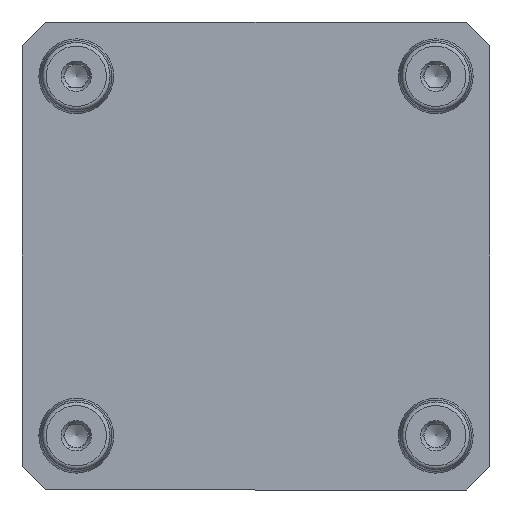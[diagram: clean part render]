
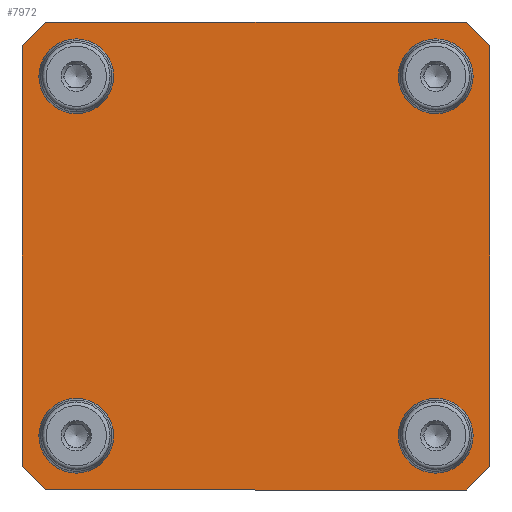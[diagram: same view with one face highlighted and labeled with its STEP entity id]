
A CAD part, front view. The second image highlights one B-rep face of the part: STEP entity #7972.
In plain terms, the highlighted planar face has unit normal (0, -1, 0).
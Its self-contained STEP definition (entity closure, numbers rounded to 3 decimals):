
#54 = LINE ( 'NONE', #2853, #2844 ) ;
#56 = LINE ( 'NONE', #9001, #7028 ) ;
#177 = CARTESIAN_POINT ( 'NONE',  ( -48., -25., -48. ) ) ;
#270 = VERTEX_POINT ( 'NONE', #6588 ) ;
#439 = CARTESIAN_POINT ( 'NONE',  ( -56.15, -25., 62.5 ) ) ;
#480 = AXIS2_PLACEMENT_3D ( 'NONE', #4082, #5568, #4974 ) ;
#498 = DIRECTION ( 'NONE',  ( 0., 0., -1. ) ) ;
#740 = VERTEX_POINT ( 'NONE', #2779 ) ;
#770 = ORIENTED_EDGE ( 'NONE', *, *, #7155, .F. ) ;
#918 = VERTEX_POINT ( 'NONE', #5151 ) ;
#924 = VERTEX_POINT ( 'NONE', #5274 ) ;
#960 = EDGE_LOOP ( 'NONE', ( #2899 ) ) ;
#1027 = DIRECTION ( 'NONE',  ( 0., 0., -1. ) ) ;
#1073 = VECTOR ( 'NONE', #4606, 1000. ) ;
#1105 = CARTESIAN_POINT ( 'NONE',  ( -56.15, -25., 62.5 ) ) ;
#1133 = EDGE_CURVE ( 'NONE', #2357, #740, #54, .T. ) ;
#1261 = EDGE_CURVE ( 'NONE', #270, #270, #3561, .T. ) ;
#1448 = EDGE_CURVE ( 'NONE', #7261, #1985, #3833, .T. ) ;
#1603 = DIRECTION ( 'NONE',  ( 0., -1., 0. ) ) ;
#1607 = LINE ( 'NONE', #5861, #2116 ) ;
#1633 = DIRECTION ( 'NONE',  ( 0., -1., 0. ) ) ;
#1848 = ORIENTED_EDGE ( 'NONE', *, *, #4522, .F. ) ;
#1985 = VERTEX_POINT ( 'NONE', #5026 ) ;
#2017 = DIRECTION ( 'NONE',  ( 0.707, 0., -0.707 ) ) ;
#2065 = VECTOR ( 'NONE', #5531, 1000. ) ;
#2116 = VECTOR ( 'NONE', #3665, 1000. ) ;
#2357 = VERTEX_POINT ( 'NONE', #7889 ) ;
#2374 = CIRCLE ( 'NONE', #3098, 8.01 ) ;
#2433 = LINE ( 'NONE', #439, #8627 ) ;
#2479 = CARTESIAN_POINT ( 'NONE',  ( -62.5, -25., -56.15 ) ) ;
#2499 = EDGE_CURVE ( 'NONE', #740, #924, #3551, .T. ) ;
#2595 = EDGE_CURVE ( 'NONE', #7932, #7932, #2374, .T. ) ;
#2779 = CARTESIAN_POINT ( 'NONE',  ( 62.5, -25., -56.15 ) ) ;
#2844 = VECTOR ( 'NONE', #3384, 1000. ) ;
#2853 = CARTESIAN_POINT ( 'NONE',  ( 62.5, -25., -56.15 ) ) ;
#2869 = LINE ( 'NONE', #4124, #4607 ) ;
#2888 = AXIS2_PLACEMENT_3D ( 'NONE', #8619, #3003, #498 ) ;
#2899 = ORIENTED_EDGE ( 'NONE', *, *, #2595, .F. ) ;
#2933 = EDGE_CURVE ( 'NONE', #8341, #8341, #8095, .T. ) ;
#3003 = DIRECTION ( 'NONE',  ( 0., -1., 0. ) ) ;
#3098 = AXIS2_PLACEMENT_3D ( 'NONE', #177, #1633, #1027 ) ;
#3230 = DIRECTION ( 'NONE',  ( 0.707, 0., 0.707 ) ) ;
#3258 = VERTEX_POINT ( 'NONE', #1105 ) ;
#3269 = VECTOR ( 'NONE', #6963, 1000. ) ;
#3384 = DIRECTION ( 'NONE',  ( 0., 0., -1. ) ) ;
#3551 = LINE ( 'NONE', #6346, #2065 ) ;
#3553 = PLANE ( 'NONE',  #6813 ) ;
#3561 = CIRCLE ( 'NONE', #5896, 8.01 ) ;
#3662 = VERTEX_POINT ( 'NONE', #9011 ) ;
#3665 = DIRECTION ( 'NONE',  ( 1., 0., 0. ) ) ;
#3718 = EDGE_CURVE ( 'NONE', #924, #7261, #2869, .T. ) ;
#3729 = ORIENTED_EDGE ( 'NONE', *, *, #3718, .F. ) ;
#3833 = LINE ( 'NONE', #2479, #1073 ) ;
#3839 = ORIENTED_EDGE ( 'NONE', *, *, #6836, .F. ) ;
#3913 = ORIENTED_EDGE ( 'NONE', *, *, #2499, .F. ) ;
#4052 = CARTESIAN_POINT ( 'NONE',  ( -48., -25., -56.01 ) ) ;
#4082 = CARTESIAN_POINT ( 'NONE',  ( 48., -25., 48. ) ) ;
#4124 = CARTESIAN_POINT ( 'NONE',  ( -56.15, -25., -62.5 ) ) ;
#4161 = EDGE_CURVE ( 'NONE', #7461, #2357, #56, .T. ) ;
#4238 = FACE_BOUND ( 'NONE', #6699, .T. ) ;
#4342 = DIRECTION ( 'NONE',  ( 0., 0., -1. ) ) ;
#4374 = FACE_BOUND ( 'NONE', #960, .T. ) ;
#4522 = EDGE_CURVE ( 'NONE', #1985, #3662, #8368, .T. ) ;
#4606 = DIRECTION ( 'NONE',  ( -0.707, 0., 0.707 ) ) ;
#4607 = VECTOR ( 'NONE', #8473, 1000. ) ;
#4695 = CARTESIAN_POINT ( 'NONE',  ( 48., -25., 39.99 ) ) ;
#4728 = ORIENTED_EDGE ( 'NONE', *, *, #1261, .F. ) ;
#4974 = DIRECTION ( 'NONE',  ( 0., 0., -1. ) ) ;
#4986 = DIRECTION ( 'NONE',  ( 0., -1., 0. ) ) ;
#5026 = CARTESIAN_POINT ( 'NONE',  ( -62.5, -25., -56.15 ) ) ;
#5128 = CARTESIAN_POINT ( 'NONE',  ( 56.15, -25., 62.5 ) ) ;
#5151 = CARTESIAN_POINT ( 'NONE',  ( 48., -25., -56.01 ) ) ;
#5274 = CARTESIAN_POINT ( 'NONE',  ( 56.15, -25., -62.5 ) ) ;
#5531 = DIRECTION ( 'NONE',  ( -0.707, 0., -0.707 ) ) ;
#5568 = DIRECTION ( 'NONE',  ( 0., -1., 0. ) ) ;
#5762 = FACE_OUTER_BOUND ( 'NONE', #6983, .T. ) ;
#5805 = FACE_BOUND ( 'NONE', #6388, .T. ) ;
#5861 = CARTESIAN_POINT ( 'NONE',  ( 56.15, -25., 62.5 ) ) ;
#5896 = AXIS2_PLACEMENT_3D ( 'NONE', #7143, #1603, #4342 ) ;
#6092 = EDGE_LOOP ( 'NONE', ( #770 ) ) ;
#6240 = ORIENTED_EDGE ( 'NONE', *, *, #1133, .F. ) ;
#6346 = CARTESIAN_POINT ( 'NONE',  ( 56.15, -25., -62.5 ) ) ;
#6349 = CARTESIAN_POINT ( 'NONE',  ( 0., -25., 0. ) ) ;
#6388 = EDGE_LOOP ( 'NONE', ( #7572 ) ) ;
#6526 = ORIENTED_EDGE ( 'NONE', *, *, #7699, .F. ) ;
#6588 = CARTESIAN_POINT ( 'NONE',  ( -48., -25., 39.99 ) ) ;
#6699 = EDGE_LOOP ( 'NONE', ( #4728 ) ) ;
#6813 = AXIS2_PLACEMENT_3D ( 'NONE', #6349, #4986, #7873 ) ;
#6836 = EDGE_CURVE ( 'NONE', #3258, #7461, #1607, .T. ) ;
#6963 = DIRECTION ( 'NONE',  ( 0., 0., 1. ) ) ;
#6983 = EDGE_LOOP ( 'NONE', ( #8668, #3729, #3913, #6240, #7612, #3839, #6526, #1848 ) ) ;
#7028 = VECTOR ( 'NONE', #2017, 1000. ) ;
#7143 = CARTESIAN_POINT ( 'NONE',  ( -48., -25., 48. ) ) ;
#7155 = EDGE_CURVE ( 'NONE', #918, #918, #8461, .T. ) ;
#7261 = VERTEX_POINT ( 'NONE', #8163 ) ;
#7461 = VERTEX_POINT ( 'NONE', #5128 ) ;
#7572 = ORIENTED_EDGE ( 'NONE', *, *, #2933, .F. ) ;
#7612 = ORIENTED_EDGE ( 'NONE', *, *, #4161, .F. ) ;
#7699 = EDGE_CURVE ( 'NONE', #3662, #3258, #2433, .T. ) ;
#7873 = DIRECTION ( 'NONE',  ( 0., 0., -1. ) ) ;
#7889 = CARTESIAN_POINT ( 'NONE',  ( 62.5, -25., 56.15 ) ) ;
#7932 = VERTEX_POINT ( 'NONE', #4052 ) ;
#7972 = ADVANCED_FACE ( 'NONE', ( #4374, #5805, #8585, #4238, #5762 ), #3553, .T. ) ;
#8095 = CIRCLE ( 'NONE', #480, 8.01 ) ;
#8163 = CARTESIAN_POINT ( 'NONE',  ( -56.15, -25., -62.5 ) ) ;
#8341 = VERTEX_POINT ( 'NONE', #4695 ) ;
#8368 = LINE ( 'NONE', #8418, #3269 ) ;
#8418 = CARTESIAN_POINT ( 'NONE',  ( -62.5, -25., 56.15 ) ) ;
#8461 = CIRCLE ( 'NONE', #2888, 8.01 ) ;
#8473 = DIRECTION ( 'NONE',  ( -1., 0., 0. ) ) ;
#8585 = FACE_BOUND ( 'NONE', #6092, .T. ) ;
#8619 = CARTESIAN_POINT ( 'NONE',  ( 48., -25., -48. ) ) ;
#8627 = VECTOR ( 'NONE', #3230, 1000. ) ;
#8668 = ORIENTED_EDGE ( 'NONE', *, *, #1448, .F. ) ;
#9001 = CARTESIAN_POINT ( 'NONE',  ( 62.5, -25., 56.15 ) ) ;
#9011 = CARTESIAN_POINT ( 'NONE',  ( -62.5, -25., 56.15 ) ) ;
